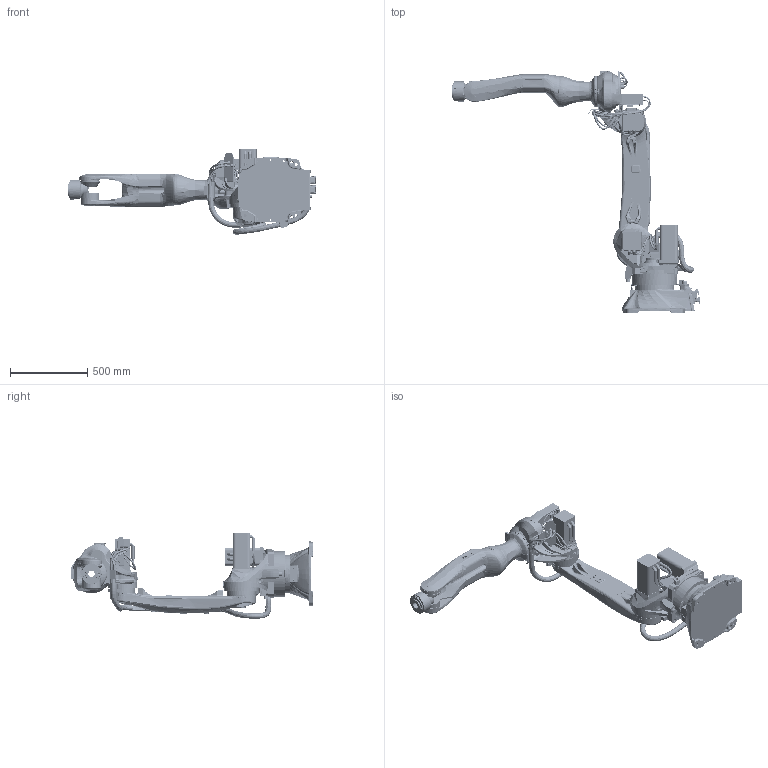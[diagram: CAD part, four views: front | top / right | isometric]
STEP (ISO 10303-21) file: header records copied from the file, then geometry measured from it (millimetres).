
FILE_DESCRIPTION (( 'STEP AP203' ), '1' );
FILE_NAME ('CR82485700-LWA-00.STEP', '2024-02-08T16:00:05', ( '' ), ( '' ), 'SwSTEP 2.0', 'SolidWorks 2023', '' );
FILE_SCHEMA (( 'CONFIG_CONTROL_DESIGN' ));
Products named in the file (9): CR82470000-LWA-05; CR82470000-LWA-02; CR82470000-LWA-03; CR82485700-LWA-02; CR82470000-LWA-04; CR82470000-LWA-08; CR82470000-LWA-07; CR82470000-LWA-09_Default tavola 2D; CR82485700-LWA-00
Assembly tree (8 placements, depth 2):
  CR82485700-LWA-00
    CR82470000-LWA-02
    CR82470000-LWA-03
    CR82470000-LWA-04
    CR82470000-LWA-05
    CR82485700-LWA-02
    CR82470000-LWA-07
    CR82470000-LWA-08
    CR82470000-LWA-09_Default tavola 2D
Bounding box: 1605.49 x 1568 x 551.91 mm (x, y, z)
Volume: 87655901.8 mm3; surface area: 4479631.8 mm2
Topology: 66 solids, 98 shells, 5351 faces, 13176 edges, 8081 vertices
Faces by surface type: plane 1833, bspline 1499, cylinder 1385, torus 301, cone 291, sphere 42
Full cylindrical faces by diameter (mm): 3.3 x2, 4.5 x2, 4.8 x8, 5 x25, 5.1 x8, 6 x11, 6.7 x3, 6.8 x18, 7 x2, 7.4 x19, 8 x18, 8.5 x14, 8.9 x9, 9 x2, 10 x5, 10.2 x7, 11.5 x8, 12 x3, 13 x24, 14 x3, 15 x2, 15.25 x4, 16 x23, 17 x1, 17.5 x10, 17.9 x2, 18 x1, 18.6 x2, 19 x2, 19.7 x1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
Entity records: 265594 total; most frequent: CARTESIAN_POINT 154675, ORIENTED_EDGE 24718, DIRECTION 19297, EDGE_CURVE 12359, VERTEX_POINT 7862, AXIS2_PLACEMENT_3D 7413, EDGE_LOOP 6085, FACE_OUTER_BOUND 5736
